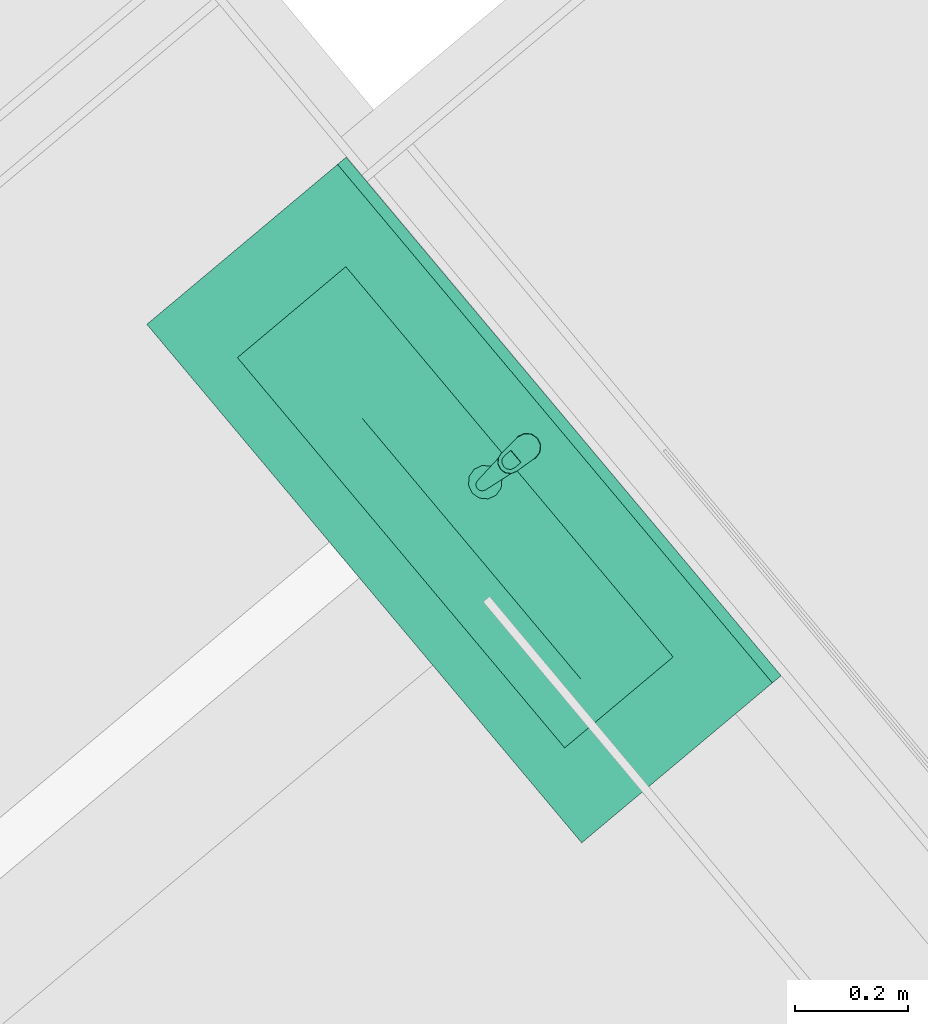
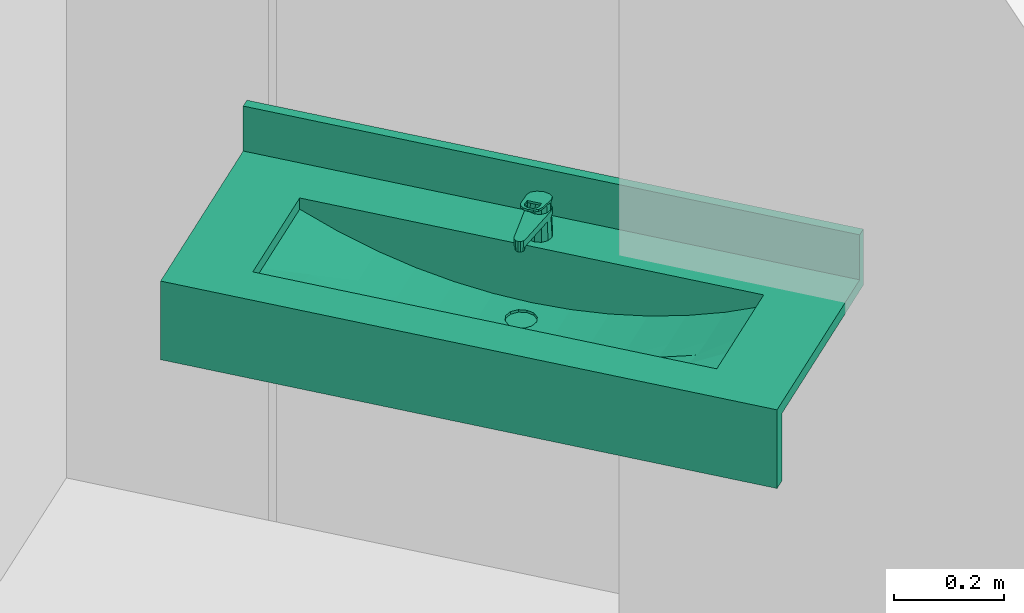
# One storey, part 45 of 47: 1 sanitary terminal.
"""IFC4 building model written with IfcOpenShell, lengths in metres."""

import ifcopenshell
import ifcopenshell.guid

model = None  # the IFC model being written
_history = None  # IfcOwnerHistory: only IFC2X3 demands one
_inside = {}  # id of a spatial element -> (the spatial element, [elements in it])
_under = {}  # id of a project, library or spatial element -> (it, [spatial elements below it])
_declared = {}  # id of a project -> (the project, [libraries it declares])
_typed = {}  # id of a type object -> (the type object, [elements of that type])
_made_of = {}  # id of a material, layer set ... -> (it, [elements and type objects made of it])


def new_model(schema):
    """Start an empty IFC model of exactly this schema.

    Asked for "IFC4X3", IfcOpenShell would pick the latest addendum, in which some entities
    have other attributes; the version numbers below select the first issue.
    IFC2X3 requires an IfcOwnerHistory on every rooted entity: one is made here for all.
    """
    global model, _history
    if schema == "IFC4X3":
        model = ifcopenshell.file(schema_version=(4, 3, 0, 0))
    else:
        model = ifcopenshell.file(schema=schema)
    _inside.clear()
    _under.clear()
    _declared.clear()
    _typed.clear()
    _made_of.clear()
    _history = None
    if model.schema == "IFC2X3":
        org = make("IfcOrganization", Name="unknown")
        user = make(
            "IfcPersonAndOrganization",
            ThePerson=make("IfcPerson", FamilyName="unknown"),
            TheOrganization=org,
        )
        app = make(
            "IfcApplication",
            ApplicationDeveloper=org,
            Version="unknown",
            ApplicationFullName="unknown",
            ApplicationIdentifier="unknown",
        )
        _history = make(
            "IfcOwnerHistory",
            OwningUser=user,
            OwningApplication=app,
            ChangeAction="ADDED",
            CreationDate=0,
        )
    return model


def make(cls, **values):
    """One entity of the class cls with the attributes given. An attribute that is None is left unset."""
    return model.create_entity(
        cls, **{name: value for name, value in values.items() if value is not None}
    )


def entity(cls, *values):
    """Any entity or typed value of the class cls, its attributes in the order of the schema. None: left unset."""
    e = model.create_entity(cls)
    for i, value in enumerate(values):
        if value is not None:
            e[i] = value
    return e


def rooted(cls, **values):
    """An entity with a GlobalId (a new one), such as an element, a storey or a relation."""
    return make(cls, GlobalId=ifcopenshell.guid.new(), OwnerHistory=_history, **values)


def si_unit(unit_type, name, prefix=None):
    """IfcSIUnit, for example si_unit("LENGTHUNIT", "METRE", prefix="MILLI")."""
    return make("IfcSIUnit", UnitType=unit_type, Prefix=prefix, Name=name)


def converted_unit(unit_type, name, factor, base, dimensions=None, offset=None):
    """IfcConversionBasedUnit, such as the inch: factor (a typed value) times the base unit."""
    return make(
        "IfcConversionBasedUnit"
        if offset is None
        else "IfcConversionBasedUnitWithOffset",
        ConversionOffset=offset,
        Dimensions=None
        if dimensions is None
        else entity("IfcDimensionalExponents", *dimensions),
        UnitType=unit_type,
        Name=name,
        ConversionFactor=make(
            "IfcMeasureWithUnit", ValueComponent=factor, UnitComponent=base
        ),
    )


def derived_unit(unit_type, elements):
    """IfcDerivedUnit: a product of units, each with its exponent."""
    return make(
        "IfcDerivedUnit",
        Elements=[
            make("IfcDerivedUnitElement", Unit=unit, Exponent=power)
            for unit, power in elements
        ],
        UnitType=unit_type,
    )


def assignment(units):
    """IfcUnitAssignment: the units of a project."""
    return None if units is None else make("IfcUnitAssignment", Units=units)


def point(xyz):
    """IfcCartesianPoint."""
    return None if xyz is None else make("IfcCartesianPoint", Coordinates=xyz)


def direction(xyz):
    """IfcDirection."""
    return None if xyz is None else make("IfcDirection", DirectionRatios=xyz)


def frame(location, z_axis=None, x_axis=None):
    """IfcAxis2Placement3D, a coordinate frame: its origin and axes. An axis left out is left unset."""
    return make(
        "IfcAxis2Placement3D",
        Location=point(location),
        Axis=direction(z_axis),
        RefDirection=direction(x_axis),
    )


def origin_with_axes():
    """The frame at (0, 0, 0) with the z axis (0, 0, 1) and the x axis (1, 0, 0) written out."""
    return frame((0.0, 0.0, 0.0), z_axis=(0.0, 0.0, 1.0), x_axis=(1.0, 0.0, 0.0))


def place(relative_to, where):
    """IfcLocalPlacement: puts the frame where relative to a parent placement (None: the world)."""
    return make(
        "IfcLocalPlacement", PlacementRelTo=relative_to, RelativePlacement=where
    )


def context(
    kind, dimensions, precision=None, world=None, true_north=None, identifier=None
):
    """IfcGeometricRepresentationContext, for example the 3D "Model" context."""
    return make(
        "IfcGeometricRepresentationContext",
        ContextIdentifier=identifier,
        ContextType=kind,
        CoordinateSpaceDimension=dimensions,
        Precision=precision,
        WorldCoordinateSystem=world,
        TrueNorth=true_north,
    )


def subcontext(parent, identifier, kind, view, scale=None):
    """IfcGeometricRepresentationSubContext, for example "Body" below "Model"."""
    return make(
        "IfcGeometricRepresentationSubContext",
        ContextIdentifier=identifier,
        ContextType=kind,
        ParentContext=parent,
        TargetScale=scale,
        TargetView=view,
    )


def project(units=None, contexts=None):
    """IfcProject with its units and contexts."""
    return rooted(
        "IfcProject",
        Name="project",
        RepresentationContexts=contexts,
        UnitsInContext=assignment(units),
    )


def spatial(cls, under=None, at=None, **own):
    """A site, building, storey or space (cls), placed at a placement, below another one or the project."""
    s = rooted(cls, ObjectPlacement=at, **own)
    if under is not None:
        _under.setdefault(under.id(), (under, []))[1].append(s)
    return s


def point_list(points):
    """IfcCartesianPointList2D or 3D."""
    cls = (
        "IfcCartesianPointList2D" if len(points[0]) == 2 else "IfcCartesianPointList3D"
    )
    return make(cls, CoordList=points)


def polygons(points, faces, closed=None, point_numbers=None):
    """IfcPolygonalFaceSet: a face is its outer loop, then its inner loops; points numbered from 1."""
    made = []
    for loops in faces:
        if len(loops) == 1:
            made.append(make("IfcIndexedPolygonalFace", CoordIndex=loops[0]))
        else:
            made.append(
                make(
                    "IfcIndexedPolygonalFaceWithVoids",
                    CoordIndex=loops[0],
                    InnerCoordIndices=loops[1:],
                )
            )
    return make(
        "IfcPolygonalFaceSet",
        Coordinates=point_list(points),
        Closed=closed,
        Faces=made,
        PnIndex=point_numbers,
    )


def shape(context_of_items, identifier, shape_type, items):
    """IfcShapeRepresentation: the items that make up one representation, for example the "Body"."""
    return make(
        "IfcShapeRepresentation",
        ContextOfItems=context_of_items,
        RepresentationIdentifier=identifier,
        RepresentationType=shape_type,
        Items=items,
    )


def source(mapping_origin, context_of_items, identifier, shape_type, items):
    """IfcRepresentationMap: a shape defined once, which mapped items show again and again."""
    return make(
        "IfcRepresentationMap",
        MappingOrigin=mapping_origin,
        MappedRepresentation=shape(context_of_items, identifier, shape_type, items),
    )


def transform(
    local_origin,
    x_axis=None,
    y_axis=None,
    z_axis=None,
    scale=None,
    scale2=None,
    scale3=None,
    uniform=True,
):
    """IfcCartesianTransformationOperator3D, or its non-uniform kind. x_axis, y_axis, z_axis: its Axis1, 2, 3."""
    if uniform:
        return make(
            "IfcCartesianTransformationOperator3D",
            Axis1=direction(x_axis),
            Axis2=direction(y_axis),
            LocalOrigin=point(local_origin),
            Scale=scale,
            Axis3=direction(z_axis),
        )
    return make(
        "IfcCartesianTransformationOperator3DnonUniform",
        Axis1=direction(x_axis),
        Axis2=direction(y_axis),
        LocalOrigin=point(local_origin),
        Scale=scale,
        Axis3=direction(z_axis),
        Scale2=scale2,
        Scale3=scale3,
    )


def mapped(mapping_source, mapping_target):
    """IfcMappedItem: shows the shape of a source again, moved by a transform."""
    return make(
        "IfcMappedItem", MappingSource=mapping_source, MappingTarget=mapping_target
    )


def made_of(thing, what):
    """Note that an element or type object is made of a material, layer set ...; save() writes the relation."""
    if what is not None:
        _made_of.setdefault(what.id(), (what, []))[1].append(thing)
    return thing


def type_object(cls, material=None, **own):
    """A type object (cls), such as IfcWallType, which elements share."""
    return made_of(rooted(cls, **own), material)


def element(
    cls,
    number,
    at=None,
    inside=None,
    cuts=None,
    type_object=None,
    material=None,
    context=None,
    identifier="Body",
    shape_type=None,
    held_by="IfcProductDefinitionShape",
    body=None,
    shapes=None,
    **own,
):
    """One element of the class cls, such as IfcWall. Its Tag is "e" and its number.

    at: its placement. inside: the storey or other place that contains it. cuts: it is an
    opening in that element (IfcRelVoidsElement). A single representation is given by context,
    identifier, shape_type and body (its items); several are given by shapes. held_by: the class
    of the entity that holds the representations. save() writes the other relations.
    """
    e = rooted(cls, Tag="e%d" % number, ObjectPlacement=at, **own)
    if body is not None:
        shapes = [shape(context, identifier, shape_type, body)]
    if shapes is not None:
        e.Representation = make(held_by, Representations=shapes)
    if inside is not None:
        _inside.setdefault(inside.id(), (inside, []))[1].append(e)
    if cuts is not None:
        rooted(
            "IfcRelVoidsElement", RelatingBuildingElement=cuts, RelatedOpeningElement=e
        )
    if type_object is not None:
        _typed.setdefault(type_object.id(), (type_object, []))[1].append(e)
    return made_of(e, material)


def aggregate(whole, parts):
    """IfcRelAggregates: a whole, such as a stair, and the parts it consists of."""
    return rooted("IfcRelAggregates", RelatingObject=whole, RelatedObjects=parts)


def save(model, path):
    """Write the relations noted so far, then the file.

    IfcRelAggregates (storeys below a building ...), IfcRelContainedInSpatialStructure (elements
    in a storey), IfcRelDefinesByType, IfcRelAssociatesMaterial and IfcRelDeclares: one each for
    every whole, place, type object, material and project.
    """
    for whole, parts in _under.values():
        aggregate(whole, parts)
    for where, things in _inside.values():
        rooted(
            "IfcRelContainedInSpatialStructure",
            RelatedElements=things,
            RelatingStructure=where,
        )
    for kind, things in _typed.values():
        rooted("IfcRelDefinesByType", RelatedObjects=things, RelatingType=kind)
    for what, things in _made_of.values():
        rooted("IfcRelAssociatesMaterial", RelatedObjects=things, RelatingMaterial=what)
    for by, libraries in _declared.values():
        rooted("IfcRelDeclares", RelatingContext=by, RelatedDefinitions=libraries)
    model.write(path)


model = new_model("IFC4")

# Units and contexts
model_context = context("Model", 3, precision=1e-05, world=origin_with_axes(), true_north=direction((0.0, 1.0)))
body_context = subcontext(model_context, "Body", "Model", "MODEL_VIEW")
ifc_project = project(units=[si_unit("LENGTHUNIT", "METRE"), si_unit("AREAUNIT", "SQUARE_METRE"), si_unit("VOLUMEUNIT", "CUBIC_METRE"), converted_unit("PLANEANGLEUNIT", "DEGREE", entity("IfcPlaneAngleMeasure", 0.0174532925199), si_unit("PLANEANGLEUNIT", "RADIAN"), dimensions=[0, 0, 0, 0, 0, 0, 0]), converted_unit("TIMEUNIT", "Year", entity("IfcTimeMeasure", 31556926.0), si_unit("TIMEUNIT", "SECOND"), dimensions=[0, 0, 1, 0, 0, 0, 0]), si_unit("MASSUNIT", "GRAM", prefix="KILO"), si_unit("THERMODYNAMICTEMPERATUREUNIT", "DEGREE_CELSIUS"), si_unit("LUMINOUSINTENSITYUNIT", "LUMEN"), si_unit("ENERGYUNIT", "JOULE", prefix="MEGA"), derived_unit("THERMALCONDUCTANCEUNIT", [(si_unit("POWERUNIT", "WATT"), 1), (si_unit("LENGTHUNIT", "METRE"), -1), (si_unit("THERMODYNAMICTEMPERATUREUNIT", "KELVIN"), -1)]), derived_unit("SPECIFICHEATCAPACITYUNIT", [(si_unit("ENERGYUNIT", "JOULE"), 1), (si_unit("MASSUNIT", "GRAM", prefix="KILO"), -1), (si_unit("THERMODYNAMICTEMPERATUREUNIT", "KELVIN"), -1)]), derived_unit("MASSDENSITYUNIT", [(si_unit("MASSUNIT", "GRAM", prefix="KILO"), 1), (si_unit("VOLUMEUNIT", "CUBIC_METRE"), -1)])], contexts=[model_context])

# Site, building, storey
site_placement = place(None, frame((-0.00153261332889, -0.00661245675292, 0.0), z_axis=(0.0, 0.0, 1.0), x_axis=(1.0, 0.0, 0.0)))
site = spatial("IfcSite", under=ifc_project, at=site_placement, Name="Site", CompositionType="ELEMENT")
building_placement = place(site_placement, origin_with_axes())
building = spatial("IfcBuilding", under=site, at=building_placement, Name="Building", CompositionType="ELEMENT")
storey_placement = place(building_placement, frame((0.0, 0.0, 8.66), z_axis=(0.0, 0.0, 1.0), x_axis=(1.0, 0.0, 0.0)))
storey = spatial("IfcBuildingStorey", under=building, at=storey_placement, Name="DG2", CompositionType="ELEMENT", Elevation=8.66)

# Sanitary terminal
sanitary_terminal_type = type_object("IfcSanitaryTerminalType", Name="Waschbecken mehrfach 26", PredefinedType="NOTDEFINED")
shared_shape = source(origin_with_axes(), body_context, "Body", "Tessellation", [
    polygons([(-0.597906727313, 0.0, 0.875), (0.597906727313, 0.0, 0.875), (0.597906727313, -0.459810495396, 0.875), (-0.597906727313, -0.459810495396, 0.875), (-0.45, -0.374905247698, 0.875), (0.45, -0.374905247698, 0.875), (0.45, -0.124905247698, 0.875), (-0.45, -0.124905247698, 0.875), (-0.597906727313, 0.0, 0.9), (0.597906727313, 0.0, 0.9), (0.597906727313, -0.459810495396, 0.9), (-0.597906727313, -0.459810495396, 0.9), (-0.45, -0.374905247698, 0.9), (0.45, -0.374905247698, 0.9), (0.45, -0.124905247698, 0.9), (-0.45, -0.124905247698, 0.9)], [[[1, 2, 3, 4], [5, 6, 7, 8]], [[1, 9, 10, 2]], [[2, 10, 11, 3]], [[3, 11, 12, 4]], [[4, 12, 9, 1]], [[13, 14, 6, 5]], [[14, 15, 7, 6]], [[15, 16, 8, 7]], [[16, 13, 5, 8]], [[11, 10, 9, 12], [13, 16, 15, 14]]], closed=True),
    polygons([(-0.597906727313, -0.02, 0.9), (0.597906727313, -0.02, 0.9), (0.597906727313, -0.02, 1.0), (-0.597906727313, -0.02, 1.0), (-0.597906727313, 0.0, 0.9), (0.597906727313, 0.0, 0.9), (0.597906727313, 0.0, 1.0), (-0.597906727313, 0.0, 1.0)], [[[1, 2, 3, 4]], [[1, 5, 6, 2]], [[2, 6, 7, 3]], [[4, 3, 7, 8]], [[5, 1, 4, 8]], [[6, 5, 8, 7]]], closed=True),
    polygons([(-0.597906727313, -0.459810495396, 0.725), (0.597906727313, -0.459810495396, 0.725), (0.597906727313, -0.459810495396, 0.875), (-0.597906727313, -0.459810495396, 0.875), (-0.597906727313, -0.434810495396, 0.725), (0.597906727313, -0.434810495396, 0.725), (0.597906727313, -0.434810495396, 0.875), (-0.597906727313, -0.434810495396, 0.875)], [[[1, 2, 3, 4]], [[1, 5, 6, 2]], [[2, 6, 7, 3]], [[4, 3, 7, 8]], [[5, 1, 4, 8]], [[6, 5, 8, 7]]], closed=True),
    polygons([(0.0, -0.210896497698, 0.775), (-0.015, -0.206877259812, 0.775530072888), (-0.0259807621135, -0.195896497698, 0.775918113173), (-0.03, -0.180896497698, 0.776060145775), (-0.0283946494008, -0.174905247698, 0.776003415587), (-0.075, -0.174905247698, 0.777650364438), (-0.075, -0.224905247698, 0.777650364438), (0.0, -0.224905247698, 0.775), (-0.015, -0.154915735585, 0.775530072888), (0.0, -0.150896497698, 0.775), (0.0, -0.124905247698, 0.775), (-0.075, -0.124905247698, 0.777650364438), (-0.0259807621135, -0.165896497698, 0.775918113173), (-0.15, -0.174905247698, 0.785641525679), (-0.15, -0.224905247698, 0.785641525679), (-0.075, -0.274905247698, 0.787304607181), (0.075, -0.174905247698, 0.777650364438), (0.0283946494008, -0.174905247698, 0.776003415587), (0.03, -0.180896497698, 0.776060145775), (0.0259807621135, -0.195896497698, 0.775918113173), (0.015, -0.206877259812, 0.775530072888), (0.075, -0.224905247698, 0.777650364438), (0.015, -0.154915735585, 0.775530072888), (0.0259807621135, -0.165896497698, 0.775918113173), (0.075, -0.124905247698, 0.777650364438), (0.225, -0.124905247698, 0.799096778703), (0.3, -0.124905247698, 0.818232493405), (0.375, -0.124905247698, 0.843376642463), (0.45, -0.124905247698, 0.875), (-0.45, -0.124905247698, 0.875), (-0.375, -0.124905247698, 0.843376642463), (-0.3, -0.124905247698, 0.818232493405), (-0.225, -0.124905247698, 0.799096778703), (-0.15, -0.124905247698, 0.785641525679), (0.15, -0.124905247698, 0.785641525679), (-0.225, -0.174905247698, 0.799096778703), (-0.225, -0.224905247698, 0.799096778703), (-0.15, -0.274905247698, 0.794561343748), (0.0, -0.274905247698, 0.784895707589), (0.15, -0.224905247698, 0.785641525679), (0.15, -0.174905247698, 0.785641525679), (0.3, -0.174905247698, 0.818232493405), (0.225, -0.174905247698, 0.799096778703), (0.375, -0.174905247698, 0.843376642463), (0.45, -0.174905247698, 0.875), (-0.375, -0.174905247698, 0.843376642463), (-0.45, -0.174905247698, 0.875), (-0.3, -0.174905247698, 0.818232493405), (-0.3, -0.224905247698, 0.818232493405), (-0.225, -0.274905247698, 0.80675793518), (-0.075, -0.324905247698, 0.828130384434), (-0.15, -0.324905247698, 0.832107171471), (0.075, -0.274905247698, 0.787304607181), (0.225, -0.224905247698, 0.799096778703), (0.3, -0.224905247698, 0.818232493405), (0.375, -0.224905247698, 0.843376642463), (0.45, -0.224905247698, 0.875), (0.45, -0.274905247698, 0.875), (0.45, -0.324905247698, 0.875), (0.45, -0.374905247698, 0.875), (-0.45, -0.274905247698, 0.875), (-0.45, -0.224905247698, 0.875), (-0.45, -0.374905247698, 0.875), (-0.45, -0.324905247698, 0.875), (-0.375, -0.224905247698, 0.843376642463), (-0.3, -0.274905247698, 0.824054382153), (-0.225, -0.324905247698, 0.838751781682), (0.0, -0.324905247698, 0.826806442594), (0.15, -0.274905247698, 0.794561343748), (0.225, -0.274905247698, 0.80675793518), (0.3, -0.274905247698, 0.824054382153), (0.375, -0.274905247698, 0.846689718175), (0.375, -0.324905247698, 0.860156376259), (0.375, -0.374905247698, 0.875), (-0.375, -0.324905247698, 0.860156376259), (-0.375, -0.274905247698, 0.846689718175), (-0.3, -0.324905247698, 0.848089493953), (-0.075, -0.374905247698, 0.875), (-0.15, -0.374905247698, 0.875), (-0.225, -0.374905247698, 0.875), (0.075, -0.324905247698, 0.828130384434), (-0.3, -0.374905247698, 0.875), (-0.375, -0.374905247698, 0.875), (0.3, -0.374905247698, 0.875), (0.225, -0.374905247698, 0.875), (0.15, -0.374905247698, 0.875), (0.075, -0.374905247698, 0.875), (0.0, -0.374905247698, 0.875), (0.15, -0.324905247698, 0.832107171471), (0.225, -0.324905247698, 0.838751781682), (0.3, -0.324905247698, 0.848089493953)], [[[1, 2, 3, 4, 5, 6, 7, 8]], [[9, 10, 11, 12, 6, 5, 13]], [[7, 6, 14, 15]], [[16, 8, 7]], [[17, 18, 19, 20, 21, 1, 8, 22]], [[10, 23, 24, 18, 17, 25, 11]], [[26, 27, 28, 29, 30, 31, 32, 33, 34, 12, 11, 25, 35]], [[6, 12, 34, 14]], [[15, 14, 36, 37]], [[38, 7, 15]], [[16, 39, 8]], [[38, 16, 7]], [[39, 22, 8]], [[40, 41, 17, 22]], [[41, 35, 25, 17]], [[42, 27, 26, 43]], [[44, 28, 27, 42]], [[45, 29, 28, 44]], [[46, 31, 30, 47]], [[48, 32, 31, 46]], [[36, 33, 32, 48]], [[14, 34, 33, 36]], [[43, 26, 35, 41]], [[37, 36, 48, 49]], [[50, 15, 37]], [[50, 38, 15]], [[51, 39, 16]], [[52, 16, 38]], [[39, 53, 22]], [[54, 43, 41, 40]], [[53, 40, 22]], [[55, 42, 43, 54]], [[56, 44, 42, 55]], [[57, 58, 59, 60, 29, 45]], [[57, 45, 44, 56]], [[61, 62, 47, 30, 63, 64]], [[65, 46, 47, 62]], [[49, 48, 46, 65]], [[66, 37, 49]], [[66, 50, 37]], [[67, 38, 50]], [[51, 68, 39]], [[52, 51, 16]], [[67, 52, 38]], [[68, 53, 39]], [[69, 54, 40]], [[53, 69, 40]], [[70, 55, 54]], [[71, 56, 55]], [[72, 58, 57]], [[73, 59, 58]], [[74, 60, 59]], [[72, 57, 56]], [[61, 65, 62]], [[63, 75, 64]], [[64, 76, 61]], [[76, 49, 65]], [[76, 66, 49]], [[77, 50, 66]], [[77, 67, 50]], [[78, 68, 51]], [[79, 51, 52]], [[80, 52, 67]], [[68, 81, 53]], [[69, 70, 54]], [[81, 69, 53]], [[70, 71, 55]], [[71, 72, 56]], [[73, 58, 72]], [[74, 59, 73]], [[80, 82, 83, 63, 60, 74, 84, 85, 86, 87, 88, 78, 79]], [[61, 76, 65]], [[63, 83, 75]], [[64, 75, 76]], [[75, 66, 76]], [[75, 77, 66]], [[82, 67, 77]], [[78, 88, 68]], [[79, 78, 51]], [[80, 79, 52]], [[82, 80, 67]], [[88, 81, 68]], [[89, 70, 69]], [[81, 89, 69]], [[90, 71, 70]], [[91, 72, 71]], [[91, 73, 72]], [[84, 74, 73]], [[83, 82, 77]], [[85, 84, 91]], [[86, 85, 90]], [[87, 86, 89]], [[88, 87, 81]], [[83, 77, 75]], [[89, 90, 70]], [[87, 89, 81]], [[90, 91, 71]], [[84, 73, 91]], [[85, 91, 90]], [[86, 90, 89]]], closed=False),
    polygons([(0.03, -0.180896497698, 0.776060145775), (0.0259807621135, -0.195896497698, 0.775918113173), (0.0259807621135, -0.195896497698, 0.77), (0.03, -0.180896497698, 0.77), (0.015, -0.206877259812, 0.775530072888), (0.015, -0.206877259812, 0.77), (0.0, -0.150896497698, 0.77), (0.015, -0.154915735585, 0.77), (0.0259807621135, -0.165896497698, 0.77), (0.0, -0.210896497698, 0.77), (-0.015, -0.206877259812, 0.77), (-0.0259807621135, -0.195896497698, 0.77), (-0.03, -0.180896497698, 0.77), (-0.0259807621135, -0.165896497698, 0.77), (-0.015, -0.154915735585, 0.77), (0.0259807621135, -0.165896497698, 0.775918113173), (0.0, -0.210896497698, 0.775), (0.0, -0.150896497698, 0.775), (0.015, -0.154915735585, 0.775530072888), (-0.015, -0.206877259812, 0.775530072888), (-0.0259807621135, -0.195896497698, 0.775918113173), (-0.03, -0.180896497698, 0.776060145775), (-0.0259807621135, -0.165896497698, 0.775918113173), (-0.015, -0.154915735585, 0.775530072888)], [[[1, 2, 3, 4]], [[2, 5, 6, 3]], [[7, 8, 9, 4, 3, 6, 10, 11, 12, 13, 14, 15]], [[16, 1, 4, 9]], [[5, 17, 10, 6]], [[18, 19, 8, 7]], [[19, 16, 9, 8]], [[17, 20, 11, 10]], [[20, 21, 12, 11]], [[21, 22, 13, 12]], [[22, 23, 14, 13]], [[23, 24, 15, 14]], [[24, 18, 7, 15]]], closed=False),
    polygons([(0.0125, -0.0632546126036, 0.9), (0.0, -0.0599052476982, 0.9), (0.0, -0.0637033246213, 0.975961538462), (0.0105873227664, -0.0665674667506, 0.976507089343), (0.0216506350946, -0.0724052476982, 0.9), (0.025, -0.0849052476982, 0.9), (0.0216506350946, -0.0974052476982, 0.9), (0.0125, -0.106555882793, 0.9), (0.0, -0.109905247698, 0.9), (-0.0125, -0.106555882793, 0.9), (-0.0216506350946, -0.0974052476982, 0.9), (-0.025, -0.0849052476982, 0.9), (-0.0216506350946, -0.0724052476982, 0.9), (-0.0125, -0.0632546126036, 0.9), (-0.0105873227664, -0.0665674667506, 0.976507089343), (-0.0182735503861, -0.0743550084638, 0.977990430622), (-0.021, -0.0849052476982, 0.98), (-0.0181003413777, -0.095355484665, 0.981990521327), (-0.0104141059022, -0.102943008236, 0.983435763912), (0.0, -0.105707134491, 0.983962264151), (0.0104141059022, -0.102943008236, 0.983435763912), (0.0181003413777, -0.095355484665, 0.981990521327), (0.021, -0.0849052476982, 0.98), (0.0182735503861, -0.0743550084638, 0.977990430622)], [[[1, 2, 3, 4]], [[1, 5, 6, 7, 8, 9, 10, 11, 12, 13, 14, 2]], [[2, 14, 15, 3]], [[4, 3, 15, 16, 17, 18, 19, 20, 21, 22, 23, 24]], [[5, 1, 4, 24]], [[6, 5, 24, 23]], [[7, 6, 23, 22]], [[8, 7, 22, 21]], [[9, 8, 21, 20]], [[10, 9, 20, 19]], [[11, 10, 19, 18]], [[12, 11, 18, 17]], [[13, 12, 17, 16]], [[14, 13, 16, 15]]], closed=True),
    polygons([(0.009, -0.187905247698, 0.935), (0.00779422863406, -0.183405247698, 0.935), (0.00779422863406, -0.183405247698, 0.945), (0.009, -0.187905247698, 0.945), (0.00779422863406, -0.192405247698, 0.935), (0.0045, -0.195699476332, 0.935), (0.0, -0.196905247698, 0.935), (-0.0045, -0.195699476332, 0.935), (-0.00779422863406, -0.192405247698, 0.935), (-0.009, -0.187905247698, 0.935), (-0.00779422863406, -0.183405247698, 0.935), (-0.0045, -0.180111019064, 0.935), (0.0, -0.178905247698, 0.935), (0.0045, -0.180111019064, 0.935), (0.0045, -0.180111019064, 0.945), (0.0, -0.178905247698, 0.945), (-0.0045, -0.180111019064, 0.945), (-0.00779422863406, -0.183405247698, 0.945), (-0.009, -0.187905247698, 0.945), (-0.00779422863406, -0.192405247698, 0.945), (-0.0045, -0.195699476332, 0.945), (0.0, -0.196905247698, 0.945), (0.0045, -0.195699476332, 0.945), (0.00779422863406, -0.192405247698, 0.945)], [[[1, 2, 3, 4]], [[1, 5, 6, 7, 8, 9, 10, 11, 12, 13, 14, 2]], [[2, 14, 15, 3]], [[4, 3, 15, 16, 17, 18, 19, 20, 21, 22, 23, 24]], [[5, 1, 4, 24]], [[6, 5, 24, 23]], [[7, 6, 23, 22]], [[8, 7, 22, 21]], [[9, 8, 21, 20]], [[10, 9, 20, 19]], [[11, 10, 19, 18]], [[12, 11, 18, 17]], [[13, 12, 17, 16]], [[14, 13, 16, 15]]], closed=True),
    polygons([(-0.0128717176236, -0.0646489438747, 0.96), (-0.021727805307, -0.0747120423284, 0.96), (-0.0238054, -0.0879551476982, 0.96), (-0.010911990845, -0.189293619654, 0.96), (-0.00902887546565, -0.194188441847, 0.96), (-0.00509332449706, -0.197654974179, 0.96), (3.62679860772e-08, -0.198905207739, 0.96), (0.00509338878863, -0.197654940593, 0.96), (0.00902891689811, -0.194188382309, 0.96), (0.010912, -0.189293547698, 0.96), (0.0238053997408, -0.0879551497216, 0.96), (0.0217278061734, -0.0747120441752, 0.96), (0.0128717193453, -0.0646489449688, 0.96), (1.01998896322e-09, -0.0609052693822, 0.96), (0.011, -0.0658526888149, 0.96), (0.0190525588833, -0.0739052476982, 0.96), (0.022, -0.0849052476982, 0.96), (0.0190525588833, -0.0959052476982, 0.96), (0.011, -0.103957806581, 0.96), (0.0, -0.106905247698, 0.96), (-0.011, -0.103957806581, 0.96), (-0.0190525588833, -0.0959052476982, 0.96), (-0.022, -0.0849052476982, 0.96), (-0.0190525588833, -0.0739052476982, 0.96), (-0.011, -0.0658526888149, 0.96), (0.0, -0.0629052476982, 0.96), (-0.021727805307, -0.0747120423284, 0.945), (-0.0128717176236, -0.0646489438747, 0.945), (-0.0238054, -0.0879551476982, 0.945), (-0.010911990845, -0.189293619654, 0.945), (-0.00902887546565, -0.194188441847, 0.945), (-0.00509332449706, -0.197654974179, 0.945), (3.62679860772e-08, -0.198905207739, 0.945), (0.00509338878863, -0.197654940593, 0.945), (0.00902891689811, -0.194188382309, 0.945), (0.010912, -0.189293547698, 0.945), (0.0238053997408, -0.0879551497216, 0.945), (0.0217278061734, -0.0747120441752, 0.945), (0.0128717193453, -0.0646489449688, 0.945), (1.01998896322e-09, -0.0609052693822, 0.945), (0.011375, -0.0652031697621, 0.945), (0.0197020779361, -0.0735302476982, 0.945), (0.02275, -0.0849052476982, 0.945), (0.0197020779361, -0.0962802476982, 0.945), (0.011375, -0.104607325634, 0.945), (0.0, -0.107655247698, 0.945), (-0.011375, -0.104607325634, 0.945), (-0.0197020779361, -0.0962802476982, 0.945), (-0.02275, -0.0849052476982, 0.945), (-0.0197020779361, -0.0735302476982, 0.945), (-0.011375, -0.0652031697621, 0.945), (0.0, -0.0621552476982, 0.945)], [[[1, 2, 3, 4, 5, 6, 7, 8, 9, 10, 11, 12, 13, 14], [15, 16, 17, 18, 19, 20, 21, 22, 23, 24, 25, 26]], [[27, 2, 1, 28]], [[29, 3, 2, 27]], [[30, 4, 3, 29]], [[31, 5, 4, 30]], [[32, 6, 5, 31]], [[33, 7, 6, 32]], [[34, 8, 7, 33]], [[35, 9, 8, 34]], [[36, 10, 9, 35]], [[37, 11, 10, 36]], [[38, 12, 11, 37]], [[39, 13, 12, 38]], [[40, 14, 13, 39]], [[28, 1, 14, 40]], [[41, 42, 16, 15]], [[42, 43, 17, 16]], [[43, 44, 18, 17]], [[44, 45, 19, 18]], [[45, 46, 20, 19]], [[21, 20, 46, 47]], [[22, 21, 47, 48]], [[23, 22, 48, 49]], [[24, 23, 49, 50]], [[25, 24, 50, 51]], [[51, 52, 26, 25]], [[52, 41, 15, 26]], [[33, 32, 31, 30, 29, 27, 28, 40, 39, 38, 37, 36, 35, 34], [45, 44, 43, 42, 41, 52, 51, 50, 49, 48, 47, 46]]], closed=True),
    polygons([(0.023893, -0.0865978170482, 0.980322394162), (0.0212964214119, -0.0741305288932, 0.977947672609), (0.0212964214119, -0.0733820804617, 0.981877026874), (0.023893, -0.0858493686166, 0.984251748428), (0.0209459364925, -0.126741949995, 0.987968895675), (0.0176631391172, -0.13641961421, 0.989812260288), (0.0100614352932, -0.14336899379, 0.991135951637), (-4.42652908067e-07, -0.145890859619, 0.991616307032), (-0.0100622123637, -0.143368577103, 0.991135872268), (-0.0176636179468, -0.136418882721, 0.989812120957), (-0.020946, -0.126741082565, 0.987968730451), (-0.023893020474, -0.0865975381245, 0.980322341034), (-0.0212962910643, -0.0741302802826, 0.977947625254), (-0.0124716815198, -0.0648140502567, 0.976173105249), (1.42337785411e-07, -0.0613732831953, 0.975517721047), (0.0124719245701, -0.0648141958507, 0.976173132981), (0.014, -0.110446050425, 0.984864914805), (-0.014, -0.110446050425, 0.984864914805), (-0.014, -0.125261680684, 0.987686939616), (-0.012124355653, -0.132138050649, 0.988996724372), (-0.007, -0.137171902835, 0.989955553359), (0.0, -0.139014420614, 0.990306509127), (0.007, -0.137171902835, 0.989955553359), (0.012124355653, -0.132138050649, 0.988996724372), (0.014, -0.125261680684, 0.987686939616), (0.0124719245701, -0.0640657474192, 0.980102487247), (1.42337785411e-07, -0.0606248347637, 0.979447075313), (-0.0124716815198, -0.0640656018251, 0.980102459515), (-0.0212962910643, -0.073381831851, 0.98187697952), (-0.023893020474, -0.085849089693, 0.984251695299), (-0.020946, -0.125992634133, 0.991898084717), (-0.0176636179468, -0.13567043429, 0.993741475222), (-0.0100622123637, -0.142620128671, 0.995065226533), (-4.42652908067e-07, -0.145142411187, 0.995545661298), (0.0100614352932, -0.142620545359, 0.995065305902), (0.0176631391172, -0.135671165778, 0.993741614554), (0.0209459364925, -0.125993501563, 0.991898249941), (0.014, -0.109697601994, 0.988794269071), (0.014, -0.124513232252, 0.991616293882), (0.012124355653, -0.131389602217, 0.992926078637), (0.007, -0.136423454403, 0.993884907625), (0.0, -0.138265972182, 0.994235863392), (-0.007, -0.136423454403, 0.993884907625), (-0.012124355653, -0.131389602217, 0.992926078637), (-0.014, -0.124513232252, 0.991616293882), (-0.014, -0.109697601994, 0.988794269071)], [[[1, 2, 3, 4]], [[1, 5, 6, 7, 8, 9, 10, 11, 12, 13, 14, 15, 16, 2], [17, 18, 19, 20, 21, 22, 23, 24, 25]], [[2, 16, 26, 3]], [[4, 3, 26, 27, 28, 29, 30, 31, 32, 33, 34, 35, 36, 37], [38, 39, 40, 41, 42, 43, 44, 45, 46]], [[5, 1, 4, 37]], [[6, 5, 37, 36]], [[7, 6, 36, 35]], [[8, 7, 35, 34]], [[9, 8, 34, 33]], [[10, 9, 33, 32]], [[11, 10, 32, 31]], [[12, 11, 31, 30]], [[13, 12, 30, 29]], [[14, 13, 29, 28]], [[15, 14, 28, 27]], [[16, 15, 27, 26]], [[18, 17, 38, 46]], [[19, 18, 46, 45]], [[20, 19, 45, 44]], [[21, 20, 44, 43]], [[22, 21, 43, 42]], [[23, 22, 42, 41]], [[24, 23, 41, 40]], [[25, 24, 40, 39]], [[17, 25, 39, 38]]], closed=True),
])
sanitary_terminal_placement = place(storey_placement, frame((5.71095695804, 20.7030323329, 0.145), z_axis=(0.0, 0.0, 1.0), x_axis=(0.64258055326, -0.766218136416, 0.0)))
element("IfcSanitaryTerminal", 1, at=sanitary_terminal_placement, inside=storey, type_object=sanitary_terminal_type, Name="Objekt-0009", PredefinedType="NOTDEFINED", context=body_context, shape_type="MappedRepresentation", body=[
    mapped(shared_shape, transform((0.0, 0.0, 0.0))),
])

save(model, "model.ifc")
